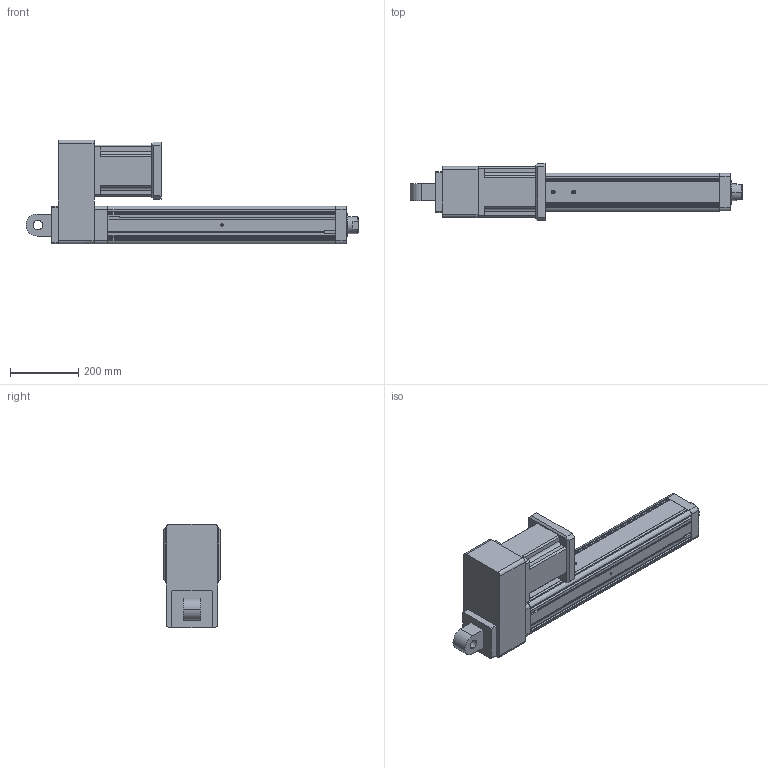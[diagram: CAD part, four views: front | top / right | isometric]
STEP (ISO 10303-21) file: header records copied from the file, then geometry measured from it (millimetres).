
FILE_DESCRIPTION (( 'STEP AP203' ), '1' );
FILE_NAME ('YRJ110-L500-H6K2.STEP', '2020-01-04T07:05:31', ( 'User' ), ( 'China' ), 'SwSTEP 2.0', 'SolidWorks 2016', '' );
FILE_SCHEMA (( 'CONFIG_CONTROL_DESIGN' ));
Length unit declared in the file: millimetre
Products named in the file (8): K2-110; YRJ110-L500-H6K2; 095-100俴最倰第; 萇儂碟-110; 142熬厒儂; H5-110-1; H6-110; H3-110-2
Assembly tree (7 placements, depth 2):
  YRJ110-L500-H6K2
    095-100俴最倰第
    萇儂碟-110
    142熬厒儂
    H5-110-1
    H6-110
    H3-110-2
    K2-110
Bounding box: 976 x 168 x 305.5 mm (x, y, z)
Volume: 12957994.9 mm3; surface area: 1115651.4 mm2
Topology: 7 solids, 7 shells, 316 faces, 865 edges, 559 vertices
Faces by surface type: plane 177, cylinder 112, cone 27
Entity records: 11082 total; most frequent: CARTESIAN_POINT 2074, DIRECTION 1718, ORIENTED_EDGE 1698, EDGE_CURVE 849, VECTOR 588, LINE 588, AXIS2_PLACEMENT_3D 565, VERTEX_POINT 559
